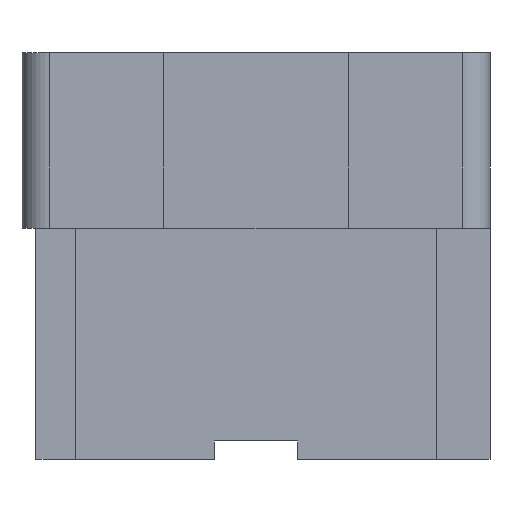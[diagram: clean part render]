
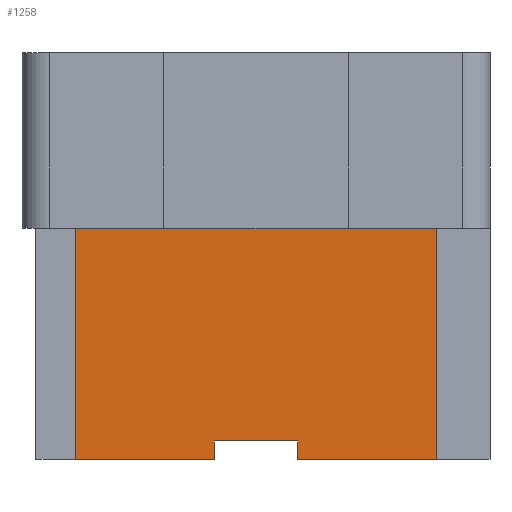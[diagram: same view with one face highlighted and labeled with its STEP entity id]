
A CAD part, front view. The second image highlights one B-rep face of the part: STEP entity #1258.
In plain terms, the highlighted planar face has unit normal (0, -1, 0).
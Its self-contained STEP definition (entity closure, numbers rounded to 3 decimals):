
#21 = EDGE_CURVE ( 'NONE', #913, #686, #766, .T. ) ;
#29 = CARTESIAN_POINT ( 'NONE',  ( 0.45, -0.75, 0. ) ) ;
#62 = CARTESIAN_POINT ( 'NONE',  ( 0., -0.75, 0. ) ) ;
#71 = ORIENTED_EDGE ( 'NONE', *, *, #1894, .F. ) ;
#98 = VECTOR ( 'NONE', #140, 1000. ) ;
#140 = DIRECTION ( 'NONE',  ( -1., 0., 0. ) ) ;
#146 = VERTEX_POINT ( 'NONE', #714 ) ;
#151 = VECTOR ( 'NONE', #1424, 1000. ) ;
#247 = VECTOR ( 'NONE', #1016, 1000. ) ;
#409 = CARTESIAN_POINT ( 'NONE',  ( -1.95, -0.75, 2.5 ) ) ;
#472 = ORIENTED_EDGE ( 'NONE', *, *, #2429, .F. ) ;
#584 = VERTEX_POINT ( 'NONE', #808 ) ;
#628 = DIRECTION ( 'NONE',  ( 0., 1., 0. ) ) ;
#649 = VECTOR ( 'NONE', #1253, 1000. ) ;
#686 = VERTEX_POINT ( 'NONE', #409 ) ;
#714 = CARTESIAN_POINT ( 'NONE',  ( 1.95, -0.75, 2.5 ) ) ;
#727 = DIRECTION ( 'NONE',  ( 0., 0., -1. ) ) ;
#750 = CARTESIAN_POINT ( 'NONE',  ( 1.95, -0.75, 0. ) ) ;
#766 = LINE ( 'NONE', #781, #247 ) ;
#768 = ORIENTED_EDGE ( 'NONE', *, *, #822, .F. ) ;
#781 = CARTESIAN_POINT ( 'NONE',  ( -1.95, -0.75, 0. ) ) ;
#808 = CARTESIAN_POINT ( 'NONE',  ( -0.45, -0.75, 0.2 ) ) ;
#818 = PLANE ( 'NONE',  #886 ) ;
#822 = EDGE_CURVE ( 'NONE', #686, #146, #2175, .T. ) ;
#853 = EDGE_LOOP ( 'NONE', ( #768, #1390, #472, #1277, #1922, #71, #1778, #2017 ) ) ;
#886 = AXIS2_PLACEMENT_3D ( 'NONE', #1719, #628, #1907 ) ;
#913 = VERTEX_POINT ( 'NONE', #2163 ) ;
#1016 = DIRECTION ( 'NONE',  ( 0., 0., 1. ) ) ;
#1218 = CARTESIAN_POINT ( 'NONE',  ( 1.95, -0.75, 0. ) ) ;
#1253 = DIRECTION ( 'NONE',  ( 1., 0., 0. ) ) ;
#1258 = ADVANCED_FACE ( 'NONE', ( #1439 ), #818, .F. ) ;
#1277 = ORIENTED_EDGE ( 'NONE', *, *, #2096, .F. ) ;
#1311 = CARTESIAN_POINT ( 'NONE',  ( 0.45, -0.75, 0.2 ) ) ;
#1318 = VERTEX_POINT ( 'NONE', #1526 ) ;
#1362 = DIRECTION ( 'NONE',  ( -1., 0., 0. ) ) ;
#1390 = ORIENTED_EDGE ( 'NONE', *, *, #21, .F. ) ;
#1424 = DIRECTION ( 'NONE',  ( 1., 0., 0. ) ) ;
#1439 = FACE_OUTER_BOUND ( 'NONE', #853, .T. ) ;
#1475 = EDGE_CURVE ( 'NONE', #1725, #1979, #1767, .T. ) ;
#1490 = VECTOR ( 'NONE', #1362, 1000. ) ;
#1508 = VERTEX_POINT ( 'NONE', #2358 ) ;
#1526 = CARTESIAN_POINT ( 'NONE',  ( -0.45, -0.75, 0. ) ) ;
#1567 = LINE ( 'NONE', #1311, #649 ) ;
#1597 = VECTOR ( 'NONE', #1684, 1000. ) ;
#1681 = VECTOR ( 'NONE', #1793, 1000. ) ;
#1684 = DIRECTION ( 'NONE',  ( 0., 0., 1. ) ) ;
#1711 = LINE ( 'NONE', #1952, #1597 ) ;
#1712 = EDGE_CURVE ( 'NONE', #584, #1508, #1567, .T. ) ;
#1719 = CARTESIAN_POINT ( 'NONE',  ( 0., -0.75, 0. ) ) ;
#1725 = VERTEX_POINT ( 'NONE', #1218 ) ;
#1767 = LINE ( 'NONE', #62, #98 ) ;
#1778 = ORIENTED_EDGE ( 'NONE', *, *, #1475, .F. ) ;
#1793 = DIRECTION ( 'NONE',  ( 0., 0., -1. ) ) ;
#1806 = CARTESIAN_POINT ( 'NONE',  ( -0.45, -0.75, 0. ) ) ;
#1825 = LINE ( 'NONE', #750, #2299 ) ;
#1880 = CARTESIAN_POINT ( 'NONE',  ( 0., -0.75, 0. ) ) ;
#1894 = EDGE_CURVE ( 'NONE', #1979, #1508, #1711, .T. ) ;
#1907 = DIRECTION ( 'NONE',  ( 0., 0., 1. ) ) ;
#1922 = ORIENTED_EDGE ( 'NONE', *, *, #1712, .T. ) ;
#1952 = CARTESIAN_POINT ( 'NONE',  ( 0.45, -0.75, 0. ) ) ;
#1965 = LINE ( 'NONE', #1880, #1490 ) ;
#1979 = VERTEX_POINT ( 'NONE', #29 ) ;
#2017 = ORIENTED_EDGE ( 'NONE', *, *, #2274, .F. ) ;
#2096 = EDGE_CURVE ( 'NONE', #584, #1318, #2225, .T. ) ;
#2163 = CARTESIAN_POINT ( 'NONE',  ( -1.95, -0.75, 0. ) ) ;
#2175 = LINE ( 'NONE', #2310, #151 ) ;
#2225 = LINE ( 'NONE', #1806, #1681 ) ;
#2274 = EDGE_CURVE ( 'NONE', #146, #1725, #1825, .T. ) ;
#2299 = VECTOR ( 'NONE', #727, 1000. ) ;
#2310 = CARTESIAN_POINT ( 'NONE',  ( 0., -0.75, 2.5 ) ) ;
#2358 = CARTESIAN_POINT ( 'NONE',  ( 0.45, -0.75, 0.2 ) ) ;
#2429 = EDGE_CURVE ( 'NONE', #1318, #913, #1965, .T. ) ;
